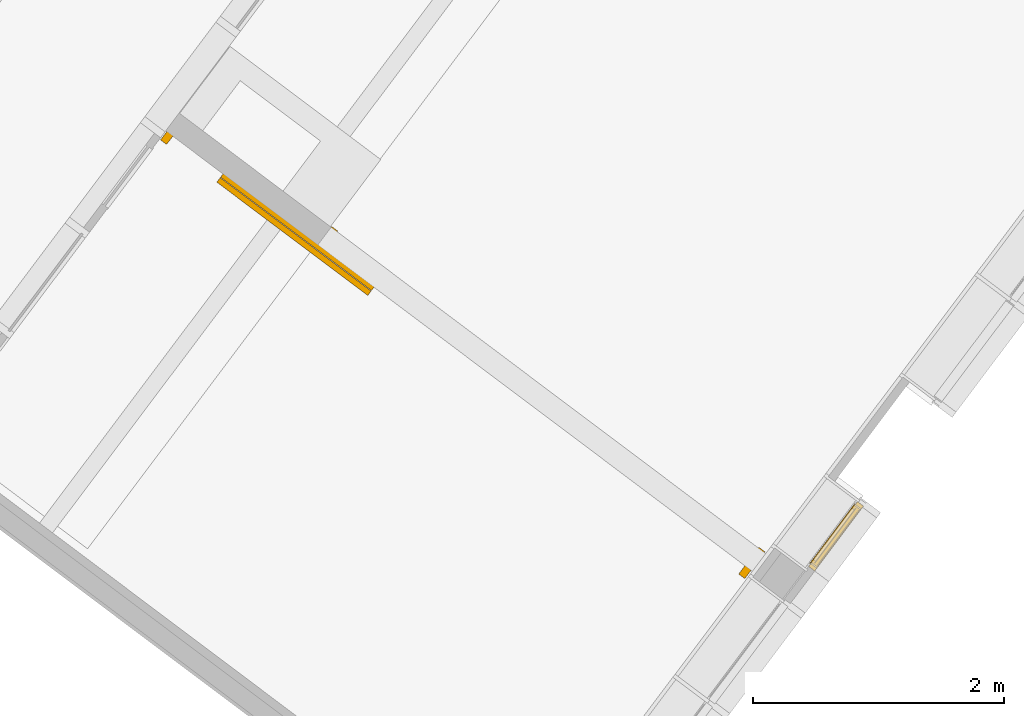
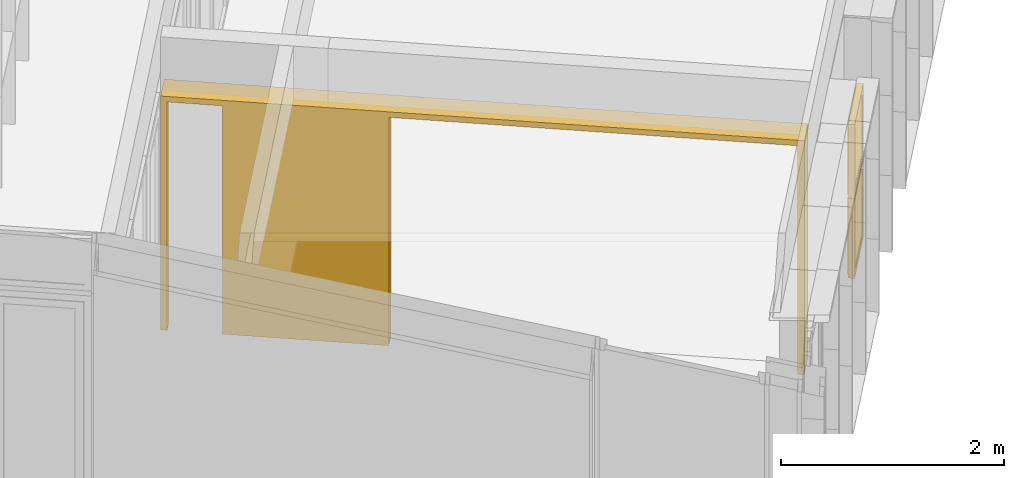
# One storey, part 145 of 243: 2 windows, 1 door, 1 element without a shape of its own.
"""IFC2X3 building model written with IfcOpenShell, lengths in metres."""

import ifcopenshell
import ifcopenshell.guid

model = None  # the IFC model being written
_history = None  # IfcOwnerHistory: only IFC2X3 demands one
_inside = {}  # id of a spatial element -> (the spatial element, [elements in it])
_under = {}  # id of a project, library or spatial element -> (it, [spatial elements below it])
_declared = {}  # id of a project -> (the project, [libraries it declares])
_typed = {}  # id of a type object -> (the type object, [elements of that type])
_made_of = {}  # id of a material, layer set ... -> (it, [elements and type objects made of it])


def new_model(schema):
    """Start an empty IFC model of exactly this schema.

    Asked for "IFC4X3", IfcOpenShell would pick the latest addendum, in which some entities
    have other attributes; the version numbers below select the first issue.
    IFC2X3 requires an IfcOwnerHistory on every rooted entity: one is made here for all.
    """
    global model, _history
    if schema == "IFC4X3":
        model = ifcopenshell.file(schema_version=(4, 3, 0, 0))
    else:
        model = ifcopenshell.file(schema=schema)
    _inside.clear()
    _under.clear()
    _declared.clear()
    _typed.clear()
    _made_of.clear()
    _history = None
    if model.schema == "IFC2X3":
        org = make("IfcOrganization", Name="unknown")
        user = make(
            "IfcPersonAndOrganization",
            ThePerson=make("IfcPerson", FamilyName="unknown"),
            TheOrganization=org,
        )
        app = make(
            "IfcApplication",
            ApplicationDeveloper=org,
            Version="unknown",
            ApplicationFullName="unknown",
            ApplicationIdentifier="unknown",
        )
        _history = make(
            "IfcOwnerHistory",
            OwningUser=user,
            OwningApplication=app,
            ChangeAction="ADDED",
            CreationDate=0,
        )
    return model


def make(cls, **values):
    """One entity of the class cls with the attributes given. An attribute that is None is left unset."""
    return model.create_entity(
        cls, **{name: value for name, value in values.items() if value is not None}
    )


def entity(cls, *values):
    """Any entity or typed value of the class cls, its attributes in the order of the schema. None: left unset."""
    e = model.create_entity(cls)
    for i, value in enumerate(values):
        if value is not None:
            e[i] = value
    return e


def rooted(cls, **values):
    """An entity with a GlobalId (a new one), such as an element, a storey or a relation."""
    return make(cls, GlobalId=ifcopenshell.guid.new(), OwnerHistory=_history, **values)


def si_unit(unit_type, name, prefix=None):
    """IfcSIUnit, for example si_unit("LENGTHUNIT", "METRE", prefix="MILLI")."""
    return make("IfcSIUnit", UnitType=unit_type, Prefix=prefix, Name=name)


def converted_unit(unit_type, name, factor, base, dimensions=None, offset=None):
    """IfcConversionBasedUnit, such as the inch: factor (a typed value) times the base unit."""
    return make(
        "IfcConversionBasedUnit"
        if offset is None
        else "IfcConversionBasedUnitWithOffset",
        ConversionOffset=offset,
        Dimensions=None
        if dimensions is None
        else entity("IfcDimensionalExponents", *dimensions),
        UnitType=unit_type,
        Name=name,
        ConversionFactor=make(
            "IfcMeasureWithUnit", ValueComponent=factor, UnitComponent=base
        ),
    )


def derived_unit(unit_type, elements):
    """IfcDerivedUnit: a product of units, each with its exponent."""
    return make(
        "IfcDerivedUnit",
        Elements=[
            make("IfcDerivedUnitElement", Unit=unit, Exponent=power)
            for unit, power in elements
        ],
        UnitType=unit_type,
    )


def assignment(units):
    """IfcUnitAssignment: the units of a project."""
    return None if units is None else make("IfcUnitAssignment", Units=units)


def point(xyz):
    """IfcCartesianPoint."""
    return None if xyz is None else make("IfcCartesianPoint", Coordinates=xyz)


def direction(xyz):
    """IfcDirection."""
    return None if xyz is None else make("IfcDirection", DirectionRatios=xyz)


def frame(location, z_axis=None, x_axis=None):
    """IfcAxis2Placement3D, a coordinate frame: its origin and axes. An axis left out is left unset."""
    return make(
        "IfcAxis2Placement3D",
        Location=point(location),
        Axis=direction(z_axis),
        RefDirection=direction(x_axis),
    )


def frame_2d(location, x_axis=None):
    """IfcAxis2Placement2D, a coordinate frame in the plane: its origin and x axis."""
    return make(
        "IfcAxis2Placement2D", Location=point(location), RefDirection=direction(x_axis)
    )


def origin():
    """The frame at (0, 0, 0) with its axes left unset."""
    return frame((0.0, 0.0, 0.0))


def origin_2d_with_axis():
    """The frame at (0, 0) in the plane with the x axis (1, 0) written out."""
    return frame_2d((0.0, 0.0), x_axis=(1.0, 0.0))


def place(relative_to, where):
    """IfcLocalPlacement: puts the frame where relative to a parent placement (None: the world)."""
    return make(
        "IfcLocalPlacement", PlacementRelTo=relative_to, RelativePlacement=where
    )


def context(
    kind, dimensions, precision=None, world=None, true_north=None, identifier=None
):
    """IfcGeometricRepresentationContext, for example the 3D "Model" context."""
    return make(
        "IfcGeometricRepresentationContext",
        ContextIdentifier=identifier,
        ContextType=kind,
        CoordinateSpaceDimension=dimensions,
        Precision=precision,
        WorldCoordinateSystem=world,
        TrueNorth=true_north,
    )


def subcontext(parent, identifier, kind, view, scale=None):
    """IfcGeometricRepresentationSubContext, for example "Body" below "Model"."""
    return make(
        "IfcGeometricRepresentationSubContext",
        ContextIdentifier=identifier,
        ContextType=kind,
        ParentContext=parent,
        TargetScale=scale,
        TargetView=view,
    )


def project(units=None, contexts=None):
    """IfcProject with its units and contexts."""
    return rooted(
        "IfcProject",
        Name="project",
        RepresentationContexts=contexts,
        UnitsInContext=assignment(units),
    )


def spatial(cls, under=None, at=None, **own):
    """A site, building, storey or space (cls), placed at a placement, below another one or the project."""
    s = rooted(cls, ObjectPlacement=at, **own)
    if under is not None:
        _under.setdefault(under.id(), (under, []))[1].append(s)
    return s


def polyline(points):
    """IfcPolyline through the points."""
    return make("IfcPolyline", Points=[point(p) for p in points])


def profile(cls, at=None, kind="AREA", **sizes):
    """A parametric profile (cls). Its sizes go by their IFC names, for example OverallWidth=200.0."""
    return make(cls, ProfileType=kind, Position=at, **sizes)


def rectangle(**sizes):
    """IfcRectangleProfileDef."""
    return profile("IfcRectangleProfileDef", **sizes)


def outline(outer, holes=None, kind="AREA"):
    """IfcArbitraryClosedProfileDef: a profile drawn as a closed curve; with holes, ...WithVoids."""
    if holes is None:
        return make("IfcArbitraryClosedProfileDef", ProfileType=kind, OuterCurve=outer)
    return make(
        "IfcArbitraryProfileDefWithVoids",
        ProfileType=kind,
        OuterCurve=outer,
        InnerCurves=holes,
    )


def extrude(swept, where, along, depth):
    """IfcExtrudedAreaSolid: the profile swept, set in the frame where, extruded along a direction by depth."""
    return make(
        "IfcExtrudedAreaSolid",
        SweptArea=swept,
        Position=where,
        ExtrudedDirection=direction(along),
        Depth=depth,
    )


def faces_of(points, faces, orient=None, outer=None):
    """IfcFace entities. A face is a list of loops; a loop is a list of indices into points, from 0.

    orient and outer hold one flag for each loop. By default every Orientation is true, the
    first loop of a face is its IfcFaceOuterBound and the others are IfcFaceBound.
    """
    made = []
    for i, loops in enumerate(faces):
        bounds = []
        for j, loop in enumerate(loops):
            is_outer = j == 0 if outer is None else outer[i][j]
            bounds.append(
                make(
                    "IfcFaceOuterBound" if is_outer else "IfcFaceBound",
                    Bound=make("IfcPolyLoop", Polygon=[points[k] for k in loop]),
                    Orientation=True if orient is None else orient[i][j],
                )
            )
        made.append(make("IfcFace", Bounds=bounds))
    return made


def faceted_brep(points, faces, orient=None, outer=None, voids=None):
    """IfcFacetedBrep: a solid bounded by flat faces; with voids (closed shells), ...WithVoids."""
    shared = [point(p) for p in points]
    hull = make("IfcClosedShell", CfsFaces=faces_of(shared, faces, orient, outer))
    if voids is None:
        return make("IfcFacetedBrep", Outer=hull)
    return make(
        "IfcFacetedBrepWithVoids",
        Outer=hull,
        Voids=[
            make(cls, CfsFaces=faces_of(shared, fs, o, b)) for cls, fs, o, b in voids
        ],
    )


def shape(context_of_items, identifier, shape_type, items):
    """IfcShapeRepresentation: the items that make up one representation, for example the "Body"."""
    return make(
        "IfcShapeRepresentation",
        ContextOfItems=context_of_items,
        RepresentationIdentifier=identifier,
        RepresentationType=shape_type,
        Items=items,
    )


def source(mapping_origin, context_of_items, identifier, shape_type, items):
    """IfcRepresentationMap: a shape defined once, which mapped items show again and again."""
    return make(
        "IfcRepresentationMap",
        MappingOrigin=mapping_origin,
        MappedRepresentation=shape(context_of_items, identifier, shape_type, items),
    )


def transform(
    local_origin,
    x_axis=None,
    y_axis=None,
    z_axis=None,
    scale=None,
    scale2=None,
    scale3=None,
    uniform=True,
):
    """IfcCartesianTransformationOperator3D, or its non-uniform kind. x_axis, y_axis, z_axis: its Axis1, 2, 3."""
    if uniform:
        return make(
            "IfcCartesianTransformationOperator3D",
            Axis1=direction(x_axis),
            Axis2=direction(y_axis),
            LocalOrigin=point(local_origin),
            Scale=scale,
            Axis3=direction(z_axis),
        )
    return make(
        "IfcCartesianTransformationOperator3DnonUniform",
        Axis1=direction(x_axis),
        Axis2=direction(y_axis),
        LocalOrigin=point(local_origin),
        Scale=scale,
        Axis3=direction(z_axis),
        Scale2=scale2,
        Scale3=scale3,
    )


def mapped(mapping_source, mapping_target):
    """IfcMappedItem: shows the shape of a source again, moved by a transform."""
    return make(
        "IfcMappedItem", MappingSource=mapping_source, MappingTarget=mapping_target
    )


def material(Name=None, Category=None):
    """IfcMaterial."""
    return make("IfcMaterial", Name=Name, Category=Category)


def material_list(materials):
    """IfcMaterialList."""
    return make("IfcMaterialList", Materials=materials)


def made_of(thing, what):
    """Note that an element or type object is made of a material, layer set ...; save() writes the relation."""
    if what is not None:
        _made_of.setdefault(what.id(), (what, []))[1].append(thing)
    return thing


def type_object(cls, material=None, **own):
    """A type object (cls), such as IfcWallType, which elements share."""
    return made_of(rooted(cls, **own), material)


def type_shapes(of_type, sources):
    """Give a type object the sources (RepresentationMaps) that its elements show as mapped items."""
    of_type.RepresentationMaps = sources


def element(
    cls,
    number,
    at=None,
    inside=None,
    cuts=None,
    type_object=None,
    material=None,
    context=None,
    identifier="Body",
    shape_type=None,
    held_by="IfcProductDefinitionShape",
    body=None,
    shapes=None,
    **own,
):
    """One element of the class cls, such as IfcWall. Its Tag is "e" and its number.

    at: its placement. inside: the storey or other place that contains it. cuts: it is an
    opening in that element (IfcRelVoidsElement). A single representation is given by context,
    identifier, shape_type and body (its items); several are given by shapes. held_by: the class
    of the entity that holds the representations. save() writes the other relations.
    """
    e = rooted(cls, Tag="e%d" % number, ObjectPlacement=at, **own)
    if body is not None:
        shapes = [shape(context, identifier, shape_type, body)]
    if shapes is not None:
        e.Representation = make(held_by, Representations=shapes)
    if inside is not None:
        _inside.setdefault(inside.id(), (inside, []))[1].append(e)
    if cuts is not None:
        rooted(
            "IfcRelVoidsElement", RelatingBuildingElement=cuts, RelatedOpeningElement=e
        )
    if type_object is not None:
        _typed.setdefault(type_object.id(), (type_object, []))[1].append(e)
    return made_of(e, material)


def aggregate(whole, parts):
    """IfcRelAggregates: a whole, such as a stair, and the parts it consists of."""
    return rooted("IfcRelAggregates", RelatingObject=whole, RelatedObjects=parts)


def save(model, path):
    """Write the relations noted so far, then the file.

    IfcRelAggregates (storeys below a building ...), IfcRelContainedInSpatialStructure (elements
    in a storey), IfcRelDefinesByType, IfcRelAssociatesMaterial and IfcRelDeclares: one each for
    every whole, place, type object, material and project.
    """
    for whole, parts in _under.values():
        aggregate(whole, parts)
    for where, things in _inside.values():
        rooted(
            "IfcRelContainedInSpatialStructure",
            RelatedElements=things,
            RelatingStructure=where,
        )
    for kind, things in _typed.values():
        rooted("IfcRelDefinesByType", RelatedObjects=things, RelatingType=kind)
    for what, things in _made_of.values():
        rooted("IfcRelAssociatesMaterial", RelatedObjects=things, RelatingMaterial=what)
    for by, libraries in _declared.values():
        rooted("IfcRelDeclares", RelatingContext=by, RelatedDefinitions=libraries)
    model.write(path)


model = new_model("IFC2X3")

# Units and contexts
model_context = context("Model", 3, precision=1e-05, world=origin(), true_north=direction((6.123031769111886e-17, 1.0)))
body_context = subcontext(model_context, "Body", "Model", "MODEL_VIEW")
ifc_project = project(units=[si_unit("LENGTHUNIT", "METRE"), si_unit("AREAUNIT", "SQUARE_METRE"), si_unit("VOLUMEUNIT", "CUBIC_METRE"), converted_unit("PLANEANGLEUNIT", "DEGREE", entity("IfcRatioMeasure", 0.017453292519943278), si_unit("PLANEANGLEUNIT", "RADIAN"), dimensions=[0, 0, 0, 0, 0, 0, 0]), si_unit("MASSUNIT", "GRAM", prefix="KILO"), derived_unit("MASSDENSITYUNIT", [(si_unit("MASSUNIT", "GRAM", prefix="KILO"), 1), (si_unit("LENGTHUNIT", "METRE"), -3)]), derived_unit("IONCONCENTRATIONUNIT", [(si_unit("MASSUNIT", "GRAM", prefix="KILO"), 1), (si_unit("LENGTHUNIT", "METRE"), -3)]), derived_unit("MOMENTOFINERTIAUNIT", [(si_unit("LENGTHUNIT", "METRE"), 4)]), si_unit("TIMEUNIT", "SECOND"), si_unit("FREQUENCYUNIT", "HERTZ"), si_unit("THERMODYNAMICTEMPERATUREUNIT", "DEGREE_CELSIUS"), derived_unit("THERMALTRANSMITTANCEUNIT", [(si_unit("MASSUNIT", "GRAM", prefix="KILO"), 1), (si_unit("THERMODYNAMICTEMPERATUREUNIT", "KELVIN"), -1), (si_unit("TIMEUNIT", "SECOND"), -3)]), derived_unit("THERMALCONDUCTANCEUNIT", [(si_unit("MASSUNIT", "GRAM", prefix="KILO"), 1), (si_unit("THERMODYNAMICTEMPERATUREUNIT", "KELVIN"), -1), (si_unit("TIMEUNIT", "SECOND"), -3), (si_unit("LENGTHUNIT", "METRE"), 1)]), derived_unit("VOLUMETRICFLOWRATEUNIT", [(si_unit("LENGTHUNIT", "METRE"), 3), (si_unit("TIMEUNIT", "SECOND"), -1)]), derived_unit("MASSFLOWRATEUNIT", [(si_unit("MASSUNIT", "GRAM", prefix="KILO"), 1), (si_unit("TIMEUNIT", "SECOND"), -1)]), derived_unit("ROTATIONALFREQUENCYUNIT", [(si_unit("TIMEUNIT", "SECOND"), -1)]), si_unit("ELECTRICCURRENTUNIT", "AMPERE"), si_unit("ELECTRICVOLTAGEUNIT", "VOLT"), si_unit("POWERUNIT", "WATT"), si_unit("FORCEUNIT", "NEWTON", prefix="KILO"), si_unit("ILLUMINANCEUNIT", "LUX"), si_unit("LUMINOUSFLUXUNIT", "LUMEN"), si_unit("LUMINOUSINTENSITYUNIT", "CANDELA"), derived_unit("USERDEFINED", [(si_unit("MASSUNIT", "GRAM", prefix="KILO"), -1), (si_unit("LENGTHUNIT", "METRE"), -2), (si_unit("TIMEUNIT", "SECOND"), 3), (si_unit("LUMINOUSFLUXUNIT", "LUMEN"), 1)]), derived_unit("USERDEFINED", [(si_unit("MASSUNIT", "GRAM", prefix="KILO"), 1), (si_unit("TIMEUNIT", "SECOND"), -3), (si_unit("LENGTHUNIT", "METRE"), 3), (si_unit("ELECTRICCURRENTUNIT", "AMPERE"), -2)]), derived_unit("SOUNDPOWERUNIT", [(si_unit("MASSUNIT", "GRAM", prefix="KILO"), 1), (si_unit("TIMEUNIT", "SECOND"), -3), (si_unit("LENGTHUNIT", "METRE"), 2)]), derived_unit("SOUNDPRESSUREUNIT", [(si_unit("MASSUNIT", "GRAM", prefix="KILO"), 1), (si_unit("LENGTHUNIT", "METRE"), -1), (si_unit("TIMEUNIT", "SECOND"), -2)]), derived_unit("LINEARVELOCITYUNIT", [(si_unit("LENGTHUNIT", "METRE"), 1), (si_unit("TIMEUNIT", "SECOND"), -1)]), si_unit("PRESSUREUNIT", "PASCAL"), derived_unit("USERDEFINED", [(si_unit("MASSUNIT", "GRAM", prefix="KILO"), 1), (si_unit("LENGTHUNIT", "METRE"), -2), (si_unit("TIMEUNIT", "SECOND"), -2)]), derived_unit("LINEARFORCEUNIT", [(si_unit("MASSUNIT", "GRAM", prefix="KILO"), 1), (si_unit("TIMEUNIT", "SECOND"), -2)]), derived_unit("PLANARFORCEUNIT", [(si_unit("MASSUNIT", "GRAM", prefix="KILO"), 1), (si_unit("LENGTHUNIT", "METRE"), -1), (si_unit("TIMEUNIT", "SECOND"), -2)]), derived_unit("SPECIFICHEATCAPACITYUNIT", [(si_unit("THERMODYNAMICTEMPERATUREUNIT", "KELVIN"), -1), (si_unit("LENGTHUNIT", "METRE"), 2), (si_unit("TIMEUNIT", "SECOND"), -2)]), derived_unit("HEATINGVALUEUNIT", [(si_unit("LENGTHUNIT", "METRE"), 2), (si_unit("TIMEUNIT", "SECOND"), -2)]), derived_unit("VAPORPERMEABILITYUNIT", [(si_unit("LENGTHUNIT", "METRE"), -1), (si_unit("TIMEUNIT", "SECOND"), 1)]), derived_unit("DYNAMICVISCOSITYUNIT", [(si_unit("MASSUNIT", "GRAM", prefix="KILO"), 1), (si_unit("TIMEUNIT", "SECOND"), -1), (si_unit("LENGTHUNIT", "METRE"), -1)]), derived_unit("THERMALEXPANSIONCOEFFICIENTUNIT", [(si_unit("THERMODYNAMICTEMPERATUREUNIT", "KELVIN"), -1)]), derived_unit("MODULUSOFELASTICITYUNIT", [(si_unit("MASSUNIT", "GRAM", prefix="KILO"), 1), (si_unit("LENGTHUNIT", "METRE"), -1), (si_unit("TIMEUNIT", "SECOND"), -2)]), derived_unit("ISOTHERMALMOISTURECAPACITYUNIT", [(si_unit("LENGTHUNIT", "METRE"), 3), (si_unit("MASSUNIT", "GRAM", prefix="KILO"), -1)]), derived_unit("MOISTUREDIFFUSIVITYUNIT", [(si_unit("TIMEUNIT", "SECOND"), -1), (si_unit("LENGTHUNIT", "METRE"), 2)])], contexts=[model_context])

# Site, building, storey
site_placement = place(None, frame((0.0, 0.0, 235.0), z_axis=(0.0, 0.0, 1.0), x_axis=(-0.7996477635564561, 0.6004693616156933, 0.0)))
site = spatial("IfcSite", under=ifc_project, at=site_placement, Name="Default", CompositionType="ELEMENT")
building_placement = place(site_placement, origin())
building = spatial("IfcBuilding", under=site, at=building_placement, CompositionType="ELEMENT")
storey_placement = place(building_placement, origin())
storey = spatial("IfcBuildingStorey", under=building, at=storey_placement, Name="P0- Escola", CompositionType="ELEMENT", Elevation=0.0)

# Curtain wall, windows
curtain_wall_type = type_object("IfcCurtainWallType", Name="Muro cortina:MC- EXT- MC2", PredefinedType="NOTDEFINED")
curtain_wall_placement = place(storey_placement, origin())
curtain_wall = element("IfcCurtainWall", 1, at=curtain_wall_placement, inside=storey, type_object=curtain_wall_type, Name="Muro cortina:MC- EXT- MC2", ObjectType="Muro cortina:MC- EXT- MC2")
ifc_material_1 = material(Name="_Vidre")
ifc_material_2 = material(Name="_Alumini- T1- Perfil")
ifc_material_list = material_list([ifc_material_1, ifc_material_2])
window_style_1 = type_object("IfcWindowStyle", Name="MC- Alu- Conjunt finestra basculant- 68x68 cm:MC- Alu- Conjunt finestra basculant- 68x68 cm", ConstructionType="NOTDEFINED", OperationType="NOTDEFINED", ParameterTakesPrecedence=False, Sizeable=False, material=ifc_material_list)
shared_shape_1 = source(origin(), body_context, "Body", "Brep", [
    faceted_brep([(0.2708485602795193, -0.03559830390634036, 0.051999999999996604), (-0.27084856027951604, -0.03559830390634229, 0.051999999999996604), (-0.2708485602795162, -0.011598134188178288, 0.051999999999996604), (0.27084856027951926, -0.011598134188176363, 0.051999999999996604), (0.2708485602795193, -0.03559830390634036, 0.82280278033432), (0.27084856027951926, -0.011598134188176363, 0.82280278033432), (-0.27084856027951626, -0.011598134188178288, 0.82280278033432), (-0.27084856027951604, -0.03559830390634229, 0.82280278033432)], [[[0, 1, 2, 3]], [[4, 0, 3, 5]], [[5, 3, 2, 6]], [[6, 2, 1, 7]], [[7, 1, 0, 4]], [[4, 5, 6, 7]]]),
    faceted_brep([(-0.2551477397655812, -0.009998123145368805, 0.8071019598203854), (-0.2551477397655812, -0.009998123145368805, 0.06789804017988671), (-0.2551477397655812, -0.007998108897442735, 0.06789804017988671), (-0.2551477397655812, -0.007998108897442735, 0.8071019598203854), (-0.284045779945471, -0.007998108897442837, 0.8360000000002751), (0.28404577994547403, -0.007998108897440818, 0.8360000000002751), (0.2840457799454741, -0.007998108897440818, 0.038999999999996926), (-0.284045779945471, -0.007998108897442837, 0.03899999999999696), (0.25514773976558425, -0.007998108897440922, 0.8071019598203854), (0.25514773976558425, -0.007998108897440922, 0.06789804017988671), (0.25514773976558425, -0.009998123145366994, 0.06789804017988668), (0.25514773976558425, -0.009998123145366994, 0.8071019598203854), (0.2708485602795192, -0.009998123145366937, 0.8228027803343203), (-0.27084856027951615, -0.00999812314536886, 0.8228027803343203), (-0.27084856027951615, -0.00999812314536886, 0.05219721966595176), (0.2708485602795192, -0.009998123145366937, 0.052197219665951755), (-0.27084856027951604, -0.04079986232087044, 0.8228027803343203), (-0.27084856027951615, -0.04079986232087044, 0.052197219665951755), (0.27084856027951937, -0.04079986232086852, 0.05219721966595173), (0.27084856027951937, -0.04079986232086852, 0.8228027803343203), (0.25514773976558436, -0.040799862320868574, 0.8071019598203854), (-0.2551477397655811, -0.040799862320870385, 0.8071019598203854), (-0.2551477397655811, -0.040799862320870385, 0.06789804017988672), (0.25514773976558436, -0.040799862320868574, 0.06789804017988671), (-0.255147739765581, -0.06800005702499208, 0.8071019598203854), (-0.255147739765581, -0.06800005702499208, 0.06789804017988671), (0.2551477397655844, -0.06800005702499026, 0.06789804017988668), (0.25514773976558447, -0.06800005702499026, 0.8071019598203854), (0.3015497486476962, -0.0680000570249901, 0.853503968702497), (-0.3015497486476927, -0.06800005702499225, 0.853503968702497), (-0.3015497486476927, -0.06800005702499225, 0.021496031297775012), (0.3015497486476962, -0.0680000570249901, 0.021496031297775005), (-0.3015497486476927, -0.06450003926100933, 0.853503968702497), (-0.3015497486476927, -0.06450003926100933, 0.021496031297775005), (0.3015497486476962, -0.0645000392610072, 0.021496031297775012), (0.3015497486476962, -0.06450003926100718, 0.853503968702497), (0.2840457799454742, -0.06450003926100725, 0.8360000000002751), (-0.28404577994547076, -0.06450003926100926, 0.8360000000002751), (-0.28404577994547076, -0.06450003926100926, 0.03899999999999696), (0.2840457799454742, -0.06450003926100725, 0.038999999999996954)], [[[0, 1, 2, 3]], [[4, 5, 6, 7], [8, 3, 2, 9]], [[1, 10, 9, 2]], [[0, 11, 10, 1], [12, 13, 14, 15]], [[16, 17, 14, 13]], [[17, 18, 15, 14]], [[16, 19, 18, 17], [20, 21, 22, 23]], [[24, 25, 22, 21]], [[25, 26, 23, 22]], [[24, 27, 26, 25], [28, 29, 30, 31]], [[32, 33, 30, 29]], [[33, 34, 31, 30]], [[32, 35, 34, 33], [36, 37, 38, 39]], [[4, 7, 38, 37]], [[7, 6, 39, 38]], [[10, 11, 8, 9]], [[18, 19, 12, 15]], [[26, 27, 20, 23]], [[34, 35, 28, 31]], [[6, 5, 36, 39]], [[11, 0, 3, 8]], [[19, 16, 13, 12]], [[27, 24, 21, 20]], [[35, 32, 29, 28]], [[5, 4, 37, 36]]], outer=[[True], [True, False], [True], [False, True], [True], [True], [True, False], [True], [True], [False, True], [True], [True], [True, False], [True], [True], [True], [True], [True], [True], [True], [True], [True], [True], [True], [True]]),
    faceted_brep([(0.26013003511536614, 0.0, 0.8121931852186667), (0.26013003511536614, 0.0, 0.06280681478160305), (0.26013003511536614, -0.0040000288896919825, 0.06280681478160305), (0.26013003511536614, -0.0040000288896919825, 0.8121931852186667), (-0.26013003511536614, -0.0040000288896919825, 0.8121931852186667), (-0.26013003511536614, -0.0040000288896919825, 0.06280681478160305), (0.295536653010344, -0.0040000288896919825, 0.8475998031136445), (-0.295536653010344, -0.0040000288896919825, 0.8475998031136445), (-0.295536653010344, -0.0040000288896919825, 0.027400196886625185), (0.295536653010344, -0.0040000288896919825, 0.02740019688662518), (-0.26013003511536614, 0.0, 0.06280681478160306), (-0.26013003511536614, 0.0, 0.8121931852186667), (-0.322936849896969, 0.0, 0.8750000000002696), (0.322936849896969, 0.0, 0.8750000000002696), (0.322936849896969, 0.0, 0.0), (-0.322936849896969, 0.0, 0.0), (0.322936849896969, -0.05999999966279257, 0.8750000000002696), (0.322936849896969, -0.05999999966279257, 0.0), (-0.322936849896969, -0.05999999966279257, 0.0), (-0.322936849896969, -0.05999999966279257, 0.8750000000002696), (-0.295536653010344, -0.05999999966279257, 0.8475998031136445), (0.295536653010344, -0.05999999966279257, 0.8475998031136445), (0.295536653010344, -0.05999999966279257, 0.027400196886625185), (-0.295536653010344, -0.05999999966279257, 0.02740019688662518)], [[[0, 1, 2, 3]], [[4, 3, 2, 5], [6, 7, 8, 9]], [[1, 10, 5, 2]], [[0, 11, 10, 1], [12, 13, 14, 15]], [[16, 17, 14, 13]], [[17, 18, 15, 14]], [[16, 19, 18, 17], [20, 21, 22, 23]], [[6, 9, 22, 21]], [[9, 8, 23, 22]], [[10, 11, 4, 5]], [[18, 19, 12, 15]], [[8, 7, 20, 23]], [[11, 0, 3, 4]], [[19, 16, 13, 12]], [[7, 6, 21, 20]]], outer=[[True], [False, True], [True], [False, True], [True], [True], [True, False], [True], [True], [True], [True], [True], [True], [True], [True]]),
])
type_shapes(window_style_1, [shared_shape_1])
window_1_placement = place(curtain_wall_placement, frame((41.045147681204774, -24.077254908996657, 0.8200000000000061), z_axis=(0.0, 0.0, 1.0), x_axis=(0.0, 1.0, 0.0)))
window_1 = element("IfcWindow", 2, at=window_1_placement, type_object=window_style_1, material=ifc_material_list, Name="MC- Alu- Conjunt finestra basculant- 68x68 cm:MC- Alu- Conjunt finestra basculant- 68x68 cm", ObjectType="MC- Alu- Conjunt finestra basculant- 68x68 cm:MC- Alu- Conjunt finestra basculant- 68x68 cm", OverallHeight=0.8750000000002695, OverallWidth=0.6458736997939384, context=body_context, shape_type="MappedRepresentation", body=[
    mapped(shared_shape_1, transform((0.0, 0.0, 0.0), scale=1.0)),
])
window_style_2 = type_object("IfcWindowStyle", Name="MC- Alu- Conjunt finestra basculant- 68x68 cm:MC- Alu- Conjunt finestra basculant- 68x68 cm", ConstructionType="NOTDEFINED", OperationType="NOTDEFINED", ParameterTakesPrecedence=False, Sizeable=False, material=ifc_material_list)
shared_shape_2 = source(origin(), body_context, "Body", "Brep", [
    faceted_brep([(0.2708485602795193, -0.03559830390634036, 0.051999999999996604), (-0.27084856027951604, -0.03559830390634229, 0.051999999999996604), (-0.27084856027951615, -0.011598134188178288, 0.051999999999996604), (0.27084856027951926, -0.011598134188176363, 0.051999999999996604), (0.2708485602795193, -0.03559830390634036, 0.7565527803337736), (0.27084856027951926, -0.011598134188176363, 0.7565527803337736), (-0.27084856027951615, -0.011598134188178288, 0.7565527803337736), (-0.27084856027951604, -0.03559830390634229, 0.7565527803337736)], [[[0, 1, 2, 3]], [[4, 0, 3, 5]], [[5, 3, 2, 6]], [[6, 2, 1, 7]], [[7, 1, 0, 4]], [[4, 5, 6, 7]]]),
    faceted_brep([(-0.2551477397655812, -0.009998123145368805, 0.7408519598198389), (-0.2551477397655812, -0.009998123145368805, 0.06789804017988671), (-0.2551477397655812, -0.007998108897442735, 0.06789804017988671), (-0.2551477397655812, -0.007998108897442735, 0.7408519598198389), (-0.284045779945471, -0.007998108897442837, 0.7697499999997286), (0.28404577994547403, -0.007998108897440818, 0.7697499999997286), (0.2840457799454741, -0.007998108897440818, 0.038999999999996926), (-0.284045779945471, -0.007998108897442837, 0.03899999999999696), (0.25514773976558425, -0.007998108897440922, 0.7408519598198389), (0.25514773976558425, -0.007998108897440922, 0.06789804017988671), (0.25514773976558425, -0.009998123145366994, 0.06789804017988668), (0.25514773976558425, -0.009998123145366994, 0.7408519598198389), (0.2708485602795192, -0.009998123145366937, 0.7565527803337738), (-0.27084856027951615, -0.00999812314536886, 0.7565527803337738), (-0.27084856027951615, -0.00999812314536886, 0.05219721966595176), (0.2708485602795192, -0.009998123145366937, 0.052197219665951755), (-0.27084856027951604, -0.04079986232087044, 0.7565527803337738), (-0.27084856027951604, -0.04079986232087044, 0.052197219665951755), (0.27084856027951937, -0.04079986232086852, 0.05219721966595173), (0.2708485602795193, -0.04079986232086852, 0.7565527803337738), (0.25514773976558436, -0.040799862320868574, 0.7408519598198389), (-0.2551477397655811, -0.040799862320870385, 0.7408519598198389), (-0.2551477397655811, -0.040799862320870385, 0.06789804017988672), (0.25514773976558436, -0.040799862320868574, 0.06789804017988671), (-0.255147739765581, -0.06800005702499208, 0.7408519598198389), (-0.255147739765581, -0.06800005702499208, 0.06789804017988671), (0.2551477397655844, -0.06800005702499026, 0.06789804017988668), (0.25514773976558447, -0.06800005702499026, 0.7408519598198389), (0.3015497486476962, -0.0680000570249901, 0.7872539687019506), (-0.3015497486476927, -0.06800005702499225, 0.7872539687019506), (-0.3015497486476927, -0.06800005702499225, 0.021496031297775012), (0.3015497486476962, -0.0680000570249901, 0.021496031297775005), (-0.3015497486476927, -0.06450003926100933, 0.7872539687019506), (-0.3015497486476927, -0.06450003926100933, 0.021496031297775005), (0.3015497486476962, -0.0645000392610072, 0.021496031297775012), (0.3015497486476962, -0.06450003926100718, 0.7872539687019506), (0.2840457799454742, -0.06450003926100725, 0.7697499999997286), (-0.28404577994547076, -0.06450003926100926, 0.7697499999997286), (-0.28404577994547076, -0.06450003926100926, 0.03899999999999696), (0.2840457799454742, -0.06450003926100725, 0.038999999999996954)], [[[0, 1, 2, 3]], [[4, 5, 6, 7], [8, 3, 2, 9]], [[1, 10, 9, 2]], [[0, 11, 10, 1], [12, 13, 14, 15]], [[16, 17, 14, 13]], [[17, 18, 15, 14]], [[16, 19, 18, 17], [20, 21, 22, 23]], [[24, 25, 22, 21]], [[25, 26, 23, 22]], [[24, 27, 26, 25], [28, 29, 30, 31]], [[32, 33, 30, 29]], [[33, 34, 31, 30]], [[32, 35, 34, 33], [36, 37, 38, 39]], [[4, 7, 38, 37]], [[7, 6, 39, 38]], [[10, 11, 8, 9]], [[18, 19, 12, 15]], [[26, 27, 20, 23]], [[34, 35, 28, 31]], [[6, 5, 36, 39]], [[11, 0, 3, 8]], [[19, 16, 13, 12]], [[27, 24, 21, 20]], [[35, 32, 29, 28]], [[5, 4, 37, 36]]], outer=[[True], [True, False], [True], [False, True], [True], [True], [True, False], [True], [True], [False, True], [True], [True], [True, False], [True], [True], [True], [True], [True], [True], [True], [True], [True], [True], [True], [True]]),
    faceted_brep([(0.26013003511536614, 0.0, 0.7459431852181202), (0.2601300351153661, 0.0, 0.06280681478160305), (0.2601300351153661, -0.0040000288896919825, 0.06280681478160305), (0.26013003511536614, -0.0040000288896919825, 0.7459431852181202), (-0.26013003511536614, -0.0040000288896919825, 0.7459431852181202), (-0.26013003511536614, -0.0040000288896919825, 0.06280681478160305), (0.295536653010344, -0.0040000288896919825, 0.7813498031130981), (-0.29553665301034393, -0.0040000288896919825, 0.781349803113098), (-0.295536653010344, -0.0040000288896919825, 0.027400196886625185), (0.29553665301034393, -0.0040000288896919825, 0.027400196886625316), (-0.26013003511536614, 0.0, 0.06280681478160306), (-0.2601300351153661, 0.0, 0.7459431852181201), (-0.322936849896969, 0.0, 0.8087499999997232), (0.322936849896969, 0.0, 0.8087499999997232), (0.322936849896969, 0.0, 0.0), (-0.322936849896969, 0.0, 0.0), (0.322936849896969, -0.05999999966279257, 0.8087499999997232), (0.322936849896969, -0.05999999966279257, 0.0), (-0.322936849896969, -0.05999999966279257, 0.0), (-0.322936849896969, -0.05999999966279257, 0.8087499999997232), (-0.295536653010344, -0.05999999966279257, 0.7813498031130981), (0.295536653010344, -0.05999999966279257, 0.7813498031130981), (0.295536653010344, -0.05999999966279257, 0.027400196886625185), (-0.295536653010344, -0.05999999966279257, 0.02740019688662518)], [[[0, 1, 2, 3]], [[4, 3, 2, 5], [6, 7, 8, 9]], [[1, 10, 5, 2]], [[0, 11, 10, 1], [12, 13, 14, 15]], [[16, 17, 14, 13]], [[17, 18, 15, 14]], [[16, 19, 18, 17], [20, 21, 22, 23]], [[6, 9, 22, 21]], [[9, 8, 23, 22]], [[10, 11, 4, 5]], [[18, 19, 12, 15]], [[8, 7, 20, 23]], [[11, 0, 3, 4]], [[19, 16, 13, 12]], [[7, 6, 21, 20]]], outer=[[True], [False, True], [True], [False, True], [True], [True], [True, False], [True], [True], [True], [True], [True], [True], [True], [True]]),
])
type_shapes(window_style_2, [shared_shape_2])
window_2_placement = place(curtain_wall_placement, frame((41.045147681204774, -24.077254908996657, 1.6950000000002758), z_axis=(0.0, 0.0, 1.0), x_axis=(0.0, 1.0, 0.0)))
window_2 = element("IfcWindow", 3, at=window_2_placement, type_object=window_style_2, material=ifc_material_list, Name="MC- Alu- Conjunt finestra basculant- 68x68 cm:MC- Alu- Conjunt finestra basculant- 68x68 cm", ObjectType="MC- Alu- Conjunt finestra basculant- 68x68 cm:MC- Alu- Conjunt finestra basculant- 68x68 cm", OverallHeight=0.8087499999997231, OverallWidth=0.6458736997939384, context=body_context, shape_type="MappedRepresentation", body=[
    mapped(shared_shape_2, transform((0.0, 0.0, 0.0), scale=1.0)),
])
aggregate(curtain_wall, [window_1, window_2])

# Door
ifc_material_3 = material(Name="_Fusta massisa- T1")
door_style = type_object("IfcDoorStyle", Name="FUS- Porta fusta- Corredera- 3 fulles:FUS- Porta fusta- Corredera- 3 fulles", ConstructionType="NOTDEFINED", OperationType="NOTDEFINED", ParameterTakesPrecedence=False, Sizeable=False, material=ifc_material_3)
shared_shape_3 = source(origin(), body_context, "Body", "SweptSolid", [
    extrude(rectangle(XDim=1.5024455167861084, YDim=0.04499999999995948, at=origin_2d_with_axis()), frame((4.503943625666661, 0.14449999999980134, 0.0)), (0.0, 0.0, 1.0), 2.500000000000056),
    extrude(rectangle(XDim=0.04499999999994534, YDim=1.5024455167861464, at=frame_2d((-1.734723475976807e-17, 0.0), x_axis=(1.0, 0.0))), frame((4.503943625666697, 0.2445000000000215, 0.0), z_axis=(0.0, 0.0, 1.0), x_axis=(0.0, -1.0, 0.0)), (0.0, 0.0, 1.0), 2.500000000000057),
    extrude(rectangle(XDim=0.044999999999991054, YDim=1.5024455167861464, at=origin_2d_with_axis()), frame((4.503943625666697, 0.19450000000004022, 0.0), z_axis=(0.0, 0.0, 1.0), x_axis=(0.0, -1.0, 0.0)), (0.0, 0.0, 1.0), 2.5000000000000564),
    extrude(rectangle(XDim=0.15000000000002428, YDim=0.060000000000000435, at=frame_2d((1.3877787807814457e-17, -5.412337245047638e-16), x_axis=(1.0, 0.0))), frame((5.785166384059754, 0.19199999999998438, 0.0), z_axis=(0.0, 0.0, 1.0), x_axis=(0.0, 1.0, 0.0)), (0.0, 0.0, 1.0), 2.559999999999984),
    extrude(rectangle(XDim=0.059999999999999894, YDim=0.1170000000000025, at=frame_2d((2.706168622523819e-16, 0.0), x_axis=(1.0, 0.0))), frame((4.28272086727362, 0.05849999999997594, 0.0), z_axis=(0.0, 0.0, 1.0), x_axis=(-1.0, 0.0, 0.0)), (0.0, 0.0, 1.0), 2.559999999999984),
    extrude(outline(polyline([(-1.6866666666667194, -1.9583887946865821), (0.8733333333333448, -1.9583887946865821), (0.8733333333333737, 3.856777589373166), (0.8133333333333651, 3.856777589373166), (0.813333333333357, -1.8983887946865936), (-1.6866666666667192, -1.8983887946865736), (-1.6866666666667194, -1.9583887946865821)])), frame((1.9583887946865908, 0.0, 1.6866666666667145), z_axis=(0.0, 1.0, 0.0), x_axis=(0.0, 0.0, 1.0)), (0.0, 0.0, 1.0), 0.26700000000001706),
])
type_shapes(door_style, [shared_shape_3])
door_placement = place(storey_placement, frame((41.45417144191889, -23.638689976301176, 0.0)))
element("IfcDoor", 4, at=door_placement, inside=storey, type_object=door_style, material=ifc_material_3, Name="FUS- Porta fusta- Corredera- 3 fulles:FUS- Porta fusta- Corredera- 3 fulles", ObjectType="FUS- Porta fusta- Corredera- 3 fulles:FUS- Porta fusta- Corredera- 3 fulles", OverallHeight=2.5600000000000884, OverallWidth=5.815166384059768, context=body_context, shape_type="MappedRepresentation", body=[
    mapped(shared_shape_3, transform((0.0, 0.0, 0.0), scale=1.0)),
])

save(model, "model.ifc")
